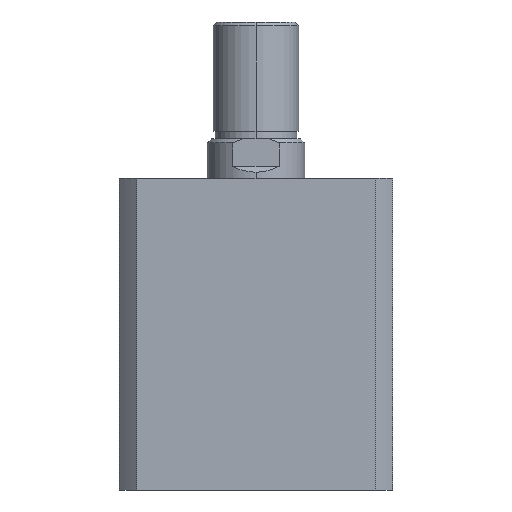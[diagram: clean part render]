
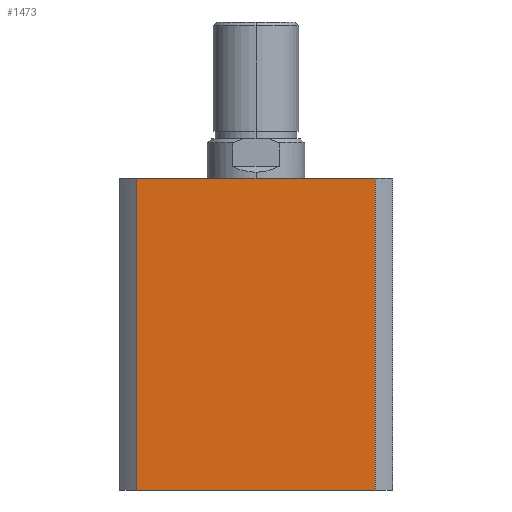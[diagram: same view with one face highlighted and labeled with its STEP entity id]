
A CAD part, left-side view. The second image highlights one B-rep face of the part: STEP entity #1473.
In plain terms, the highlighted planar face has unit normal (-1, 0, 0).
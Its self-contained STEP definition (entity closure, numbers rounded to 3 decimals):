
#63 = CARTESIAN_POINT ( 'NONE',  ( -35., 30.615, 80. ) ) ;
#65 = CARTESIAN_POINT ( 'NONE',  ( -35., -30.615, 80. ) ) ;
#295 = DIRECTION ( 'NONE',  ( 0., 0., -1. ) ) ;
#316 = CARTESIAN_POINT ( 'NONE',  ( -35., 30.615, 80. ) ) ;
#319 = CARTESIAN_POINT ( 'NONE',  ( -35., -30.615, 80. ) ) ;
#320 = DIRECTION ( 'NONE',  ( 0., 0., -1. ) ) ;
#680 = EDGE_CURVE ( 'NONE', #3322, #3326, #3648, .T. ) ;
#782 = EDGE_CURVE ( 'NONE', #1720, #1766, #3766, .T. ) ;
#1022 = VECTOR ( 'NONE', #295, 1000. ) ;
#1024 = LINE ( 'NONE', #316, #1022 ) ;
#1025 = VECTOR ( 'NONE', #320, 1000. ) ;
#1028 = LINE ( 'NONE', #319, #1025 ) ;
#1473 = ADVANCED_FACE ( 'NONE', ( #2982 ), #4492, .F. ) ;
#1625 = ORIENTED_EDGE ( 'NONE', *, *, #2320, .T. ) ;
#1626 = ORIENTED_EDGE ( 'NONE', *, *, #680, .F. ) ;
#1627 = ORIENTED_EDGE ( 'NONE', *, *, #2318, .F. ) ;
#1628 = ORIENTED_EDGE ( 'NONE', *, *, #782, .T. ) ;
#1720 = VERTEX_POINT ( 'NONE', #4530 ) ;
#1766 = VERTEX_POINT ( 'NONE', #4575 ) ;
#1989 = EDGE_LOOP ( 'NONE', ( #1628, #1627, #1626, #1625 ) ) ;
#2318 = EDGE_CURVE ( 'NONE', #3326, #1766, #1028, .T. ) ;
#2320 = EDGE_CURVE ( 'NONE', #3322, #1720, #1024, .T. ) ;
#2644 = CARTESIAN_POINT ( 'NONE',  ( -35., 0., 0. ) ) ;
#2645 = DIRECTION ( 'NONE',  ( 0., -1., 0. ) ) ;
#2982 = FACE_OUTER_BOUND ( 'NONE', #1989, .T. ) ;
#3322 = VERTEX_POINT ( 'NONE', #63 ) ;
#3326 = VERTEX_POINT ( 'NONE', #65 ) ;
#3434 = DIRECTION ( 'NONE',  ( 0., -1., 0. ) ) ;
#3438 = CARTESIAN_POINT ( 'NONE',  ( -35., 0., 80. ) ) ;
#3644 = VECTOR ( 'NONE', #3434, 1000. ) ;
#3648 = LINE ( 'NONE', #3438, #3644 ) ;
#3721 = VECTOR ( 'NONE', #2645, 1000. ) ;
#3766 = LINE ( 'NONE', #2644, #3721 ) ;
#3853 = AXIS2_PLACEMENT_3D ( 'NONE', #4490, #4495, #4496 ) ;
#4490 = CARTESIAN_POINT ( 'NONE',  ( -35., 0., 80. ) ) ;
#4492 = PLANE ( 'NONE',  #3853 ) ;
#4495 = DIRECTION ( 'NONE',  ( 1., 0., 0. ) ) ;
#4496 = DIRECTION ( 'NONE',  ( 0., 1., 0. ) ) ;
#4530 = CARTESIAN_POINT ( 'NONE',  ( -35., 30.615, 0. ) ) ;
#4575 = CARTESIAN_POINT ( 'NONE',  ( -35., -30.615, 0. ) ) ;
